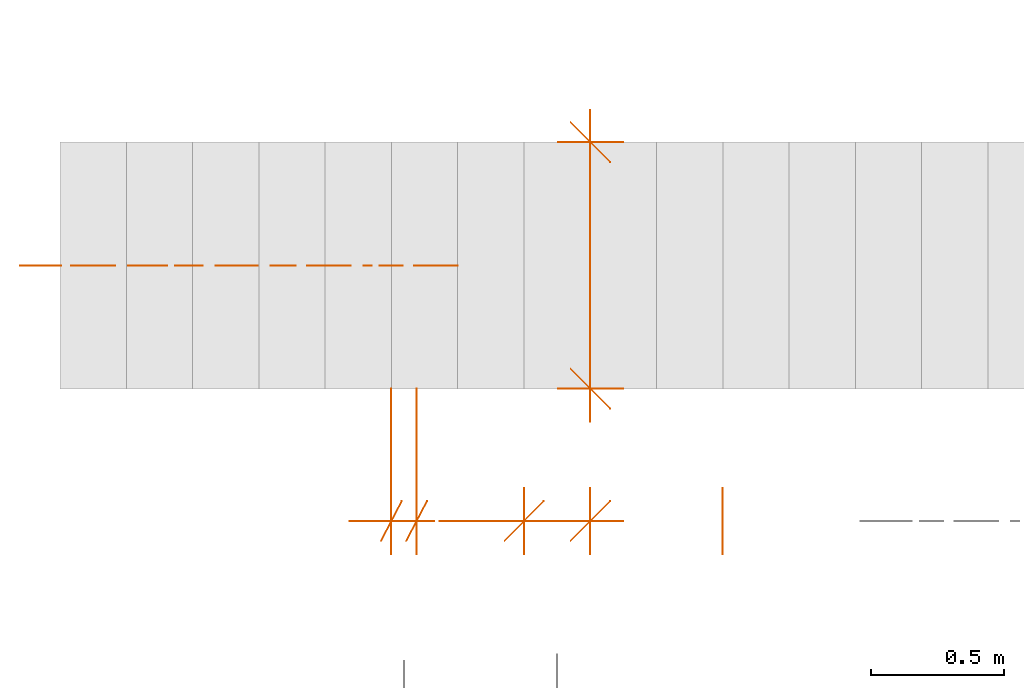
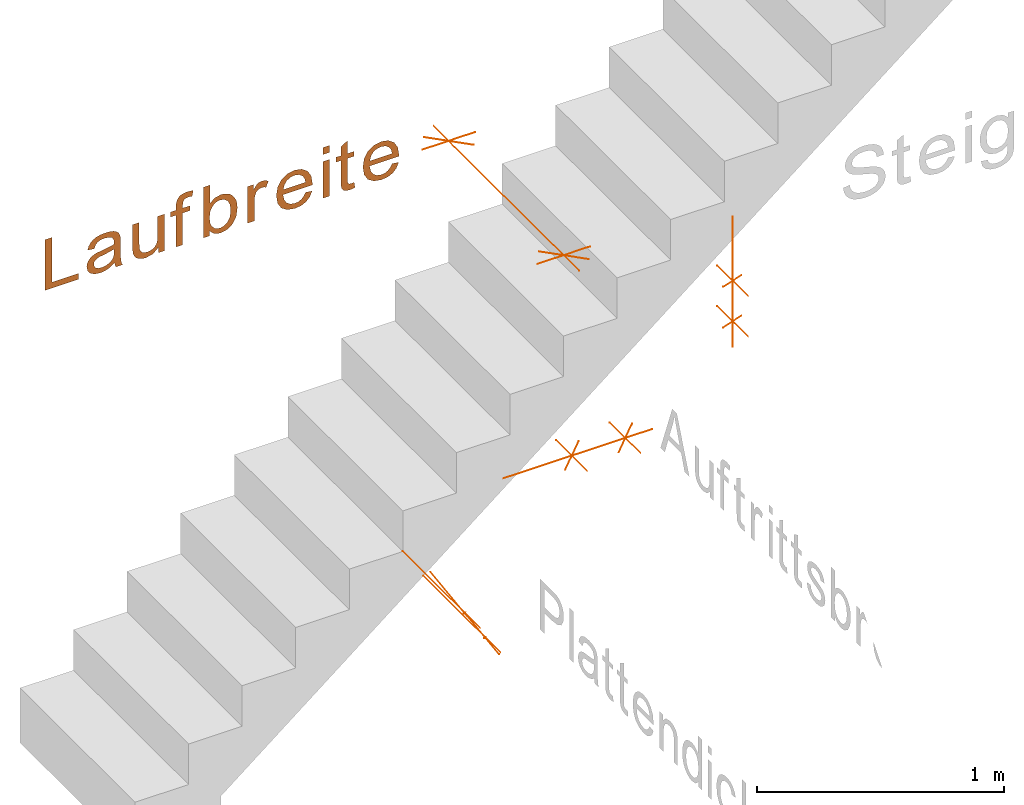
# One storey, part 2 of 5: 5 proxies, 5 elements without a shape of their own.
"""IFC4 building model written with IfcOpenShell, lengths in metres."""

from ifc_helpers import new_model, entity, si_unit, converted_unit, derived_unit, frame, origin, origin_with_axes, place, context, subcontext, project, spatial, open_shell, surface_model, source, transform, mapped, element, aggregate, save


model = new_model("IFC4")

# Units and contexts
model_context = context("Model", 3, precision=1e-05, world=origin())
body_context = subcontext(model_context, "Body", "Model", "MODEL_VIEW")
ifc_project = project(units=[si_unit("LENGTHUNIT", "METRE"), si_unit("AREAUNIT", "SQUARE_METRE"), si_unit("VOLUMEUNIT", "CUBIC_METRE"), si_unit("MASSUNIT", "GRAM", prefix="KILO"), converted_unit("PLANEANGLEUNIT", "DEGREE", entity("IfcPlaneAngleMeasure", 0.0174532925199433), si_unit("PLANEANGLEUNIT", "RADIAN"), dimensions=[0, 0, 0, 0, 0, 0, 0]), derived_unit("THERMALTRANSMITTANCEUNIT", [(si_unit("POWERUNIT", "WATT"), 1), (si_unit("THERMODYNAMICTEMPERATUREUNIT", "KELVIN"), -1), (si_unit("LENGTHUNIT", "METRE"), -2)]), derived_unit("VOLUMETRICFLOWRATEUNIT", [(si_unit("LENGTHUNIT", "METRE"), 3), (converted_unit("TIMEUNIT", "hour", entity("IfcTimeMeasure", 3600.0), si_unit("TIMEUNIT", "SECOND"), dimensions=[0, 0, 1, 0, 0, 0, 0]), -1), (si_unit("LENGTHUNIT", "METRE"), -1)])], contexts=[model_context])

# Site, building, storey
site_placement = place(None, origin())
site = spatial("IfcSite", under=ifc_project, at=site_placement, Name="Liegenschaft", CompositionType="ELEMENT")
building_placement = place(site_placement, origin())
building = spatial("IfcBuilding", under=site, at=building_placement, Name="Gebäude", CompositionType="ELEMENT")
storey_placement = place(building_placement, origin())
storey = spatial("IfcBuildingStorey", under=building, at=storey_placement, Name="Geschoss 02", CompositionType="ELEMENT", Elevation=0.0)

# Assembly, proxy
assembly_1_placement = place(storey_placement, origin())
assembly_1 = element("IfcElementAssembly", 1, at=assembly_1_placement, inside=storey, Name="SpatialDim_Group", PredefinedType="NOTDEFINED")
shared_shape_1 = source(origin_with_axes(), body_context, "Axis", "Curve3D", [
    entity("IfcPolyline", [entity("IfcCartesianPoint", [0.247, 0.05, 0.0]), entity("IfcCartesianPoint", [0.397, 0.2, 0.0])]),
    entity("IfcPolyline", [entity("IfcCartesianPoint", [0.322, 0.0, 0.0]), entity("IfcCartesianPoint", [0.322, 0.25, 0.0])]),
    entity("IfcPolyline", [entity("IfcCartesianPoint", [0.447, 0.05, 0.0]), entity("IfcCartesianPoint", [0.597, 0.2, 0.0])]),
    entity("IfcPolyline", [entity("IfcCartesianPoint", [0.522, 0.0, 0.0]), entity("IfcCartesianPoint", [0.522, 0.25, 0.0])]),
    entity("IfcPolyline", [entity("IfcCartesianPoint", [0.0, 0.125, 0.0]), entity("IfcCartesianPoint", [0.647, 0.125, 0.0])]),
])
proxy_1_placement = place(assembly_1_placement, frame((122.566730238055, -1.68032871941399, 2.522), z_axis=(1.0, 0.0, 1.22464679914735e-16), x_axis=(1.22464679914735e-16, 0.0, -1.0)))
proxy_1 = element("IfcBuildingElementProxy", 2, at=proxy_1_placement, Name="macro", context=body_context, shape_type="MappedRepresentation", body=[
    mapped(shared_shape_1, transform((0.0, 0.0, 0.0), x_axis=(1.0, 0.0, 0.0), y_axis=(0.0, 1.0, 0.0), z_axis=(0.0, 0.0, 1.0), scale=1.0)),
])
aggregate(assembly_1, [proxy_1])

assembly_2_placement = place(storey_placement, origin())
assembly_2 = element("IfcElementAssembly", 3, at=assembly_2_placement, inside=storey, Name="SpatialDim_Group", PredefinedType="NOTDEFINED")
shared_shape_2 = source(origin_with_axes(), body_context, "Axis", "Curve3D", [
    entity("IfcPolyline", [entity("IfcCartesianPoint", [0.247, 0.05, 0.0]), entity("IfcCartesianPoint", [0.397, 0.2, 0.0])]),
    entity("IfcPolyline", [entity("IfcCartesianPoint", [0.322, 0.0, 0.0]), entity("IfcCartesianPoint", [0.322, 0.25, 0.0])]),
    entity("IfcPolyline", [entity("IfcCartesianPoint", [0.497, 0.05, 0.0]), entity("IfcCartesianPoint", [0.647, 0.2, 0.0])]),
    entity("IfcPolyline", [entity("IfcCartesianPoint", [0.572, 0.0, 0.0]), entity("IfcCartesianPoint", [0.572, 0.25, 0.0])]),
    entity("IfcPolyline", [entity("IfcCartesianPoint", [0.0, 0.125, 0.0]), entity("IfcCartesianPoint", [0.697, 0.125, 0.0])]),
])
proxy_2_placement = place(assembly_2_placement, frame((121.494730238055, -1.68032871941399, 1.6)))
proxy_2 = element("IfcBuildingElementProxy", 4, at=proxy_2_placement, Name="macro", context=body_context, shape_type="MappedRepresentation", body=[
    mapped(shared_shape_2, transform((0.0, 0.0, 0.0), x_axis=(1.0, 0.0, 0.0), y_axis=(0.0, 1.0, 0.0), z_axis=(0.0, 0.0, 1.0), scale=1.0)),
])
aggregate(assembly_2, [proxy_2])

assembly_3_placement = place(storey_placement, origin())
assembly_3 = element("IfcElementAssembly", 5, at=assembly_3_placement, inside=storey, Name="SpatialDim_Group", PredefinedType="NOTDEFINED")
shared_shape_3 = source(origin_with_axes(), body_context, "Axis", "Curve3D", [
    entity("IfcPolyline", [entity("IfcCartesianPoint", [0.05, 0.05, 0.0]), entity("IfcCartesianPoint", [0.2, 0.2, 0.0])]),
    entity("IfcPolyline", [entity("IfcCartesianPoint", [0.125, 0.0, 0.0]), entity("IfcCartesianPoint", [0.125, 0.25, 0.0])]),
    entity("IfcPolyline", [entity("IfcCartesianPoint", [0.98, 0.05, 0.0]), entity("IfcCartesianPoint", [1.13, 0.2, 0.0])]),
    entity("IfcPolyline", [entity("IfcCartesianPoint", [1.055, 0.0, 0.0]), entity("IfcCartesianPoint", [1.055, 0.25, 0.0])]),
    entity("IfcPolyline", [entity("IfcCartesianPoint", [0.0, 0.125, 0.0]), entity("IfcCartesianPoint", [1.18, 0.125, 0.0])]),
])
proxy_3_placement = place(assembly_3_placement, frame((121.941730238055, -0.000328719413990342, 2.19819812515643), z_axis=(0.0, 0.0, 1.0), x_axis=(1.22464679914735e-16, -1.0, 0.0)))
proxy_3 = element("IfcBuildingElementProxy", 6, at=proxy_3_placement, Name="macro", context=body_context, shape_type="MappedRepresentation", body=[
    mapped(shared_shape_3, transform((0.0, 0.0, 0.0), x_axis=(1.0, 0.0, 0.0), y_axis=(0.0, 1.0, 0.0), z_axis=(0.0, 0.0, 1.0), scale=1.0)),
])
aggregate(assembly_3, [proxy_3])

assembly_4_placement = place(storey_placement, origin())
assembly_4 = element("IfcElementAssembly", 7, at=assembly_4_placement, inside=storey, Name="SpatialDim_Group", PredefinedType="NOTDEFINED")
shared_shape_4 = source(origin_with_axes(), body_context, "Body", "SurfaceModel", [
    surface_model("IfcShellBasedSurfaceModel", [(0.298675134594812, 2.151, 0.0), (0.298675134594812, 1.995, 0.0), (0.327675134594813, 1.995, 0.0), (0.327675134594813, 2.118, 0.0), (0.548675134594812, 2.118, 0.0), (0.548675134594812, 2.151, 0.0)], [open_shell([[[0, 1, 2, 3, 4, 5]]], orient=[[False]])]),
    surface_model("IfcShellBasedSurfaceModel", [(0.309050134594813, 1.82475, 0.0), (0.298675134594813, 1.821, 0.0), (0.298675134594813, 1.79, 0.0), (0.309300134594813, 1.794625, 0.0), (0.320675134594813, 1.797, 0.0), (0.340175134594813, 1.79875, 0.0), (0.374675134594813, 1.799, 0.0), (0.415675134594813, 1.799, 0.0), (0.433050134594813, 1.799625, 0.0), (0.443675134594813, 1.801, 0.0), (0.455675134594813, 1.80475, 0.0), (0.464675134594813, 1.81, 0.0), (0.472425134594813, 1.819125, 0.0), (0.478675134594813, 1.832, 0.0), (0.482675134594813, 1.849125, 0.0), (0.483675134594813, 1.87, 0.0), (0.482175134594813, 1.8925, 0.0), (0.477675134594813, 1.912, 0.0), (0.469300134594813, 1.92775, 0.0), (0.458675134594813, 1.939, 0.0), (0.444675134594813, 1.947875, 0.0), (0.427675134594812, 1.953, 0.0), (0.423675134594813, 1.922, 0.0), (0.440925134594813, 1.915125, 0.0), (0.450675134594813, 1.906, 0.0), (0.456925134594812, 1.892625, 0.0), (0.458675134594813, 1.874, 0.0), (0.455925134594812, 1.853, 0.0), (0.448675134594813, 1.838, 0.0), (0.437425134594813, 1.83125, 0.0), (0.421675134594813, 1.829, 0.0), (0.418425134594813, 1.829, 0.0), (0.413675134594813, 1.829, 0.0), (0.407800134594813, 1.852125, 0.0), (0.402675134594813, 1.885, 0.0), (0.400300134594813, 1.90075, 0.0), (0.398675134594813, 1.912, 0.0), (0.394050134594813, 1.924625, 0.0), (0.388675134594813, 1.935, 0.0), (0.380425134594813, 1.944125, 0.0), (0.370675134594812, 1.951, 0.0), (0.358675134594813, 1.9555, 0.0), (0.346675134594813, 1.957, 0.0), (0.325550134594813, 1.95275, 0.0), (0.309675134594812, 1.941, 0.0), (0.298425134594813, 1.9205, 0.0), (0.294675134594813, 1.894, 0.0), (0.296175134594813, 1.87625, 0.0), (0.300675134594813, 1.86, 0.0), (0.308925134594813, 1.8435, 0.0), (0.321675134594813, 1.827, 0.0), (0.383675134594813, 1.85, 0.0), (0.389675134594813, 1.829, 0.0), (0.378675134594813, 1.829, 0.0), (0.360175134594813, 1.830375, 0.0), (0.347675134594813, 1.834, 0.0), (0.334925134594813, 1.843, 0.0), (0.326675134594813, 1.855, 0.0), (0.320425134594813, 1.87025, 0.0), (0.318675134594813, 1.887, 0.0), (0.320800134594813, 1.90325, 0.0), (0.326675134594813, 1.915, 0.0), (0.336425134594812, 1.92175, 0.0), (0.347675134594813, 1.924, 0.0), (0.355425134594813, 1.92275, 0.0), (0.361675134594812, 1.92, 0.0), (0.367800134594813, 1.913875, 0.0), (0.371675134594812, 1.907, 0.0), (0.375425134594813, 1.89575, 0.0), (0.377675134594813, 1.88, 0.0)], [open_shell([[[0, 1, 2, 3, 4, 5, 6, 7, 8, 9, 10, 11, 12, 13, 14, 15, 16, 17, 18, 19, 20, 21, 22, 23, 24, 25, 26, 27, 28, 29, 30, 31, 32, 33, 34, 35, 36, 37, 38, 39, 40, 41, 42, 43, 44, 45, 46, 47, 48, 49, 50], [51, 52, 53, 54, 55, 56, 57, 58, 59, 60, 61, 62, 63, 64, 65, 66, 67, 68, 69]]], orient=[[False, False]])]),
    surface_model("IfcShellBasedSurfaceModel", [(0.298675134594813, 1.623, 0.0), (0.298675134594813, 1.595, 0.0), (0.479675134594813, 1.595, 0.0), (0.479675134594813, 1.626, 0.0), (0.382675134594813, 1.626, 0.0), (0.361675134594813, 1.627375, 0.0), (0.346675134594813, 1.631, 0.0), (0.335675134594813, 1.638, 0.0), (0.327675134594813, 1.648, 0.0), (0.322300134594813, 1.660625, 0.0), (0.320675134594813, 1.674, 0.0), (0.322675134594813, 1.6875, 0.0), (0.327675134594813, 1.698, 0.0), (0.336050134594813, 1.7055, 0.0), (0.346675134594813, 1.71, 0.0), (0.358925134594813, 1.71175, 0.0), (0.378675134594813, 1.712, 0.0), (0.479675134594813, 1.712, 0.0), (0.479675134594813, 1.743, 0.0), (0.367675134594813, 1.743, 0.0), (0.350175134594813, 1.742375, 0.0), (0.338675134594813, 1.741, 0.0), (0.326550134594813, 1.73725, 0.0), (0.316675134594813, 1.732, 0.0), (0.307550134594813, 1.723, 0.0), (0.300675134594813, 1.711, 0.0), (0.296175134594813, 1.696, 0.0), (0.294675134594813, 1.681, 0.0), (0.302175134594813, 1.647875, 0.0), (0.324675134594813, 1.623, 0.0)], [open_shell([[[0, 1, 2, 3, 4, 5, 6, 7, 8, 9, 10, 11, 12, 13, 14, 15, 16, 17, 18, 19, 20, 21, 22, 23, 24, 25, 26, 27, 28, 29]]], orient=[[False]])]),
    surface_model("IfcShellBasedSurfaceModel", [(0.298675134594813, 1.54, 0.0), (0.298675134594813, 1.509, 0.0), (0.455675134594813, 1.509, 0.0), (0.455675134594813, 1.474, 0.0), (0.479675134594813, 1.474, 0.0), (0.479675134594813, 1.509, 0.0), (0.496675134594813, 1.509, 0.0), (0.510300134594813, 1.5075, 0.0), (0.518675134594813, 1.503, 0.0), (0.523175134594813, 1.494875, 0.0), (0.524675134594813, 1.483, 0.0), (0.524050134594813, 1.474, 0.0), (0.522675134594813, 1.465, 0.0), (0.549675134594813, 1.46, 0.0), (0.551925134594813, 1.475625, 0.0), (0.552675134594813, 1.489, 0.0), (0.550675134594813, 1.50725, 0.0), (0.545675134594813, 1.521, 0.0), (0.536425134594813, 1.53075, 0.0), (0.525675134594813, 1.536, 0.0), (0.514425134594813, 1.539125, 0.0), (0.498675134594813, 1.54, 0.0), (0.479675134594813, 1.54, 0.0), (0.479675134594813, 1.566, 0.0), (0.455675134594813, 1.566, 0.0), (0.455675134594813, 1.54, 0.0)], [open_shell([[[0, 1, 2, 3, 4, 5, 6, 7, 8, 9, 10, 11, 12, 13, 14, 15, 16, 17, 18, 19, 20, 21, 22, 23, 24, 25]]], orient=[[False]])]),
    surface_model("IfcShellBasedSurfaceModel", [(0.298675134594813, 1.383, 0.0), (0.321675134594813, 1.383, 0.0), (0.301425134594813, 1.361375, 0.0), (0.294675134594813, 1.333, 0.0), (0.301175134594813, 1.302375, 0.0), (0.319675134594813, 1.277, 0.0), (0.351175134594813, 1.2595, 0.0), (0.391675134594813, 1.254, 0.0), (0.411300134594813, 1.255375, 0.0), (0.428675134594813, 1.259, 0.0), (0.444675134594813, 1.26625, 0.0), (0.457675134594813, 1.275, 0.0), (0.469050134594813, 1.2855, 0.0), (0.476675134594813, 1.299, 0.0), (0.482050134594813, 1.314625, 0.0), (0.483675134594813, 1.331, 0.0), (0.477675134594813, 1.358625, 0.0), (0.459675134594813, 1.381, 0.0), (0.548675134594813, 1.381, 0.0), (0.548675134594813, 1.412, 0.0), (0.298675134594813, 1.412, 0.0), (0.362675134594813, 1.38175, 0.0), (0.390675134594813, 1.384, 0.0), (0.419925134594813, 1.38025, 0.0), (0.441675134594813, 1.369, 0.0), (0.454675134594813, 1.352625, 0.0), (0.458675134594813, 1.334, 0.0), (0.454300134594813, 1.315, 0.0), (0.441675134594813, 1.299, 0.0), (0.419800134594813, 1.28825, 0.0), (0.389675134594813, 1.285, 0.0), (0.358800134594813, 1.28875, 0.0), (0.337675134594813, 1.3, 0.0), (0.324175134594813, 1.316375, 0.0), (0.319675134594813, 1.335, 0.0), (0.325675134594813, 1.357625, 0.0), (0.343675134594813, 1.375, 0.0)], [open_shell([[[0, 1, 2, 3, 4, 5, 6, 7, 8, 9, 10, 11, 12, 13, 14, 15, 16, 17, 18, 19, 20], [21, 22, 23, 24, 25, 26, 27, 28, 29, 30, 31, 32, 33, 34, 35, 36]]], orient=[[False, False]])]),
    surface_model("IfcShellBasedSurfaceModel", [(0.298675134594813, 1.206, 0.0), (0.298675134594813, 1.175, 0.0), (0.393675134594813, 1.175, 0.0), (0.412300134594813, 1.173625, 0.0), (0.428675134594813, 1.17, 0.0), (0.438675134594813, 1.165625, 0.0), (0.445675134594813, 1.159, 0.0), (0.450175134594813, 1.15, 0.0), (0.451675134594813, 1.141, 0.0), (0.450175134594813, 1.12975, 0.0), (0.445675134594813, 1.12, 0.0), (0.473675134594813, 1.109, 0.0), (0.481300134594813, 1.124875, 0.0), (0.483675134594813, 1.14, 0.0), (0.482175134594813, 1.15075, 0.0), (0.477675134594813, 1.16, 0.0), (0.468050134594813, 1.1695, 0.0), (0.451675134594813, 1.179, 0.0), (0.479675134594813, 1.179, 0.0), (0.479675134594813, 1.206, 0.0)], [open_shell([[[0, 1, 2, 3, 4, 5, 6, 7, 8, 9, 10, 11, 12, 13, 14, 15, 16, 17, 18, 19]]], orient=[[False]])]),
    surface_model("IfcShellBasedSurfaceModel", [(0.356675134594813, 0.936, 0.0), (0.340050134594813, 0.944875, 0.0), (0.328675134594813, 0.956, 0.0), (0.321925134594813, 0.969375, 0.0), (0.319675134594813, 0.985, 0.0), (0.323925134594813, 1.00675, 0.0), (0.335675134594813, 1.024, 0.0), (0.355300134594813, 1.035875, 0.0), (0.381675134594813, 1.041, 0.0), (0.381675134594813, 0.904, 0.0), (0.386425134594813, 0.904, 0.0), (0.389675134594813, 0.904, 0.0), (0.429425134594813, 0.909875, 0.0), (0.458675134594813, 0.927, 0.0), (0.477550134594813, 0.954, 0.0), (0.483675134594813, 0.987, 0.0), (0.477175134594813, 1.021625, 0.0), (0.458675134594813, 1.048, 0.0), (0.428050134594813, 1.066, 0.0), (0.387675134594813, 1.072, 0.0), (0.347925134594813, 1.066125, 0.0), (0.318675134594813, 1.049, 0.0), (0.300675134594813, 1.02075, 0.0), (0.294675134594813, 0.985, 0.0), (0.298425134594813, 0.955625, 0.0), (0.309675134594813, 0.933, 0.0), (0.328175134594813, 0.915625, 0.0), (0.352675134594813, 0.905, 0.0), (0.426300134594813, 0.93975, 0.0), (0.406675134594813, 0.936, 0.0), (0.406675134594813, 1.04, 0.0), (0.428300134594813, 1.034625, 0.0), (0.444675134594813, 1.024, 0.0), (0.455425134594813, 1.007, 0.0), (0.458675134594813, 0.987, 0.0), (0.454175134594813, 0.96525, 0.0), (0.440675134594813, 0.948, 0.0)], [open_shell([[[0, 1, 2, 3, 4, 5, 6, 7, 8, 9, 10, 11, 12, 13, 14, 15, 16, 17, 18, 19, 20, 21, 22, 23, 24, 25, 26, 27], [28, 29, 30, 31, 32, 33, 34, 35, 36]]], orient=[[False, False]])]),
    surface_model("IfcShellBasedSurfaceModel", [(0.298675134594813, 0.855, 0.0), (0.298675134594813, 0.824, 0.0), (0.479675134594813, 0.824, 0.0), (0.479675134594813, 0.855, 0.0), (0.514675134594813, 0.855, 0.0), (0.514675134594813, 0.824, 0.0), (0.548675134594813, 0.824, 0.0), (0.548675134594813, 0.855, 0.0)], [open_shell([[[0, 1, 2, 3]], [[4, 5, 6, 7]]], orient=[[False], [False]])]),
    surface_model("IfcShellBasedSurfaceModel", [(0.326675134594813, 0.709, 0.0), (0.325800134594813, 0.71675, 0.0), (0.325675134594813, 0.723, 0.0), (0.326300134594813, 0.72875, 0.0), (0.327675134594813, 0.733, 0.0), (0.330675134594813, 0.736625, 0.0), (0.333675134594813, 0.738, 0.0), (0.340300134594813, 0.73975, 0.0), (0.350675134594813, 0.74, 0.0), (0.455675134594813, 0.74, 0.0), (0.455675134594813, 0.709, 0.0), (0.479675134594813, 0.709, 0.0), (0.479675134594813, 0.74, 0.0), (0.542675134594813, 0.74, 0.0), (0.524675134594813, 0.771, 0.0), (0.479675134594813, 0.771, 0.0), (0.479675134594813, 0.794, 0.0), (0.455675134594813, 0.794, 0.0), (0.455675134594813, 0.771, 0.0), (0.351675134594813, 0.771, 0.0), (0.329175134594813, 0.76975, 0.0), (0.315675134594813, 0.767, 0.0), (0.307925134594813, 0.761625, 0.0), (0.301675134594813, 0.754, 0.0), (0.297675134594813, 0.742875, 0.0), (0.296675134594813, 0.728, 0.0), (0.297425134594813, 0.716875, 0.0), (0.299675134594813, 0.705, 0.0)], [open_shell([[[0, 1, 2, 3, 4, 5, 6, 7, 8, 9, 10, 11, 12, 13, 14, 15, 16, 17, 18, 19, 20, 21, 22, 23, 24, 25, 26, 27]]], orient=[[False]])]),
    surface_model("IfcShellBasedSurfaceModel", [(0.356675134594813, 0.532, 0.0), (0.340050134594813, 0.540875, 0.0), (0.328675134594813, 0.552, 0.0), (0.321925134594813, 0.565375, 0.0), (0.319675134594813, 0.581, 0.0), (0.323925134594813, 0.60275, 0.0), (0.335675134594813, 0.62, 0.0), (0.355300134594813, 0.631875, 0.0), (0.381675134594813, 0.637, 0.0), (0.381675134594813, 0.5, 0.0), (0.386425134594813, 0.5, 0.0), (0.389675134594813, 0.5, 0.0), (0.429425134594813, 0.505875, 0.0), (0.458675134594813, 0.523, 0.0), (0.477550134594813, 0.55, 0.0), (0.483675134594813, 0.583, 0.0), (0.477175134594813, 0.617625, 0.0), (0.458675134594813, 0.644, 0.0), (0.428050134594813, 0.662, 0.0), (0.387675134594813, 0.668, 0.0), (0.347925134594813, 0.662125, 0.0), (0.318675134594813, 0.645, 0.0), (0.300675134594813, 0.61675, 0.0), (0.294675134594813, 0.581, 0.0), (0.298425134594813, 0.551625, 0.0), (0.309675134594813, 0.529, 0.0), (0.328175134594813, 0.511625, 0.0), (0.352675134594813, 0.501, 0.0), (0.426300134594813, 0.53575, 0.0), (0.406675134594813, 0.532, 0.0), (0.406675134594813, 0.636, 0.0), (0.428300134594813, 0.630625, 0.0), (0.444675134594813, 0.62, 0.0), (0.455425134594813, 0.603, 0.0), (0.458675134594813, 0.583, 0.0), (0.454175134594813, 0.56125, 0.0), (0.440675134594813, 0.544, 0.0)], [open_shell([[[0, 1, 2, 3, 4, 5, 6, 7, 8, 9, 10, 11, 12, 13, 14, 15, 16, 17, 18, 19, 20, 21, 22, 23, 24, 25, 26, 27], [28, 29, 30, 31, 32, 33, 34, 35, 36]]], orient=[[False, False]])]),
])
proxy_4_placement = place(assembly_4_placement, frame((122.066730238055, -0.59032871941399, 2.19819812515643), z_axis=(-1.22464679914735e-16, -1.0, 1.49975978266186e-32), x_axis=(1.22464679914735e-16, 0.0, 1.0)))
proxy_4 = element("IfcBuildingElementProxy", 8, at=proxy_4_placement, Name="macro", context=body_context, shape_type="MappedRepresentation", body=[
    mapped(shared_shape_4, transform((0.0, 0.0, 0.0), x_axis=(1.0, 0.0, 0.0), y_axis=(0.0, 1.0, 0.0), z_axis=(0.0, 0.0, 1.0), scale=1.0)),
])
aggregate(assembly_4, [proxy_4])

assembly_5_placement = place(storey_placement, origin())
assembly_5 = element("IfcElementAssembly", 9, at=assembly_5_placement, inside=storey, Name="SpatialDim_Group", PredefinedType="NOTDEFINED")
shared_shape_5 = source(origin_with_axes(), body_context, "Axis", "Curve3D", [
    entity("IfcPolyline", [entity("IfcCartesianPoint", [0.233, 0.05, 0.0]), entity("IfcCartesianPoint", [0.383, 0.2, 0.0])]),
    entity("IfcPolyline", [entity("IfcCartesianPoint", [0.308, 0.0, 0.0]), entity("IfcCartesianPoint", [0.308, 0.625, 0.0])]),
    entity("IfcPolyline", [entity("IfcCartesianPoint", [0.414354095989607, 0.05, 0.0]), entity("IfcCartesianPoint", [0.564354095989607, 0.2, 0.0])]),
    entity("IfcPolyline", [entity("IfcCartesianPoint", [0.489354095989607, 0.0, 0.0]), entity("IfcCartesianPoint", [0.489354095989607, 0.625, 0.0])]),
    entity("IfcPolyline", [entity("IfcCartesianPoint", [0.0, 0.125, 0.0]), entity("IfcCartesianPoint", [0.614354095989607, 0.125, 0.0])]),
])
proxy_5_placement = place(assembly_5_placement, frame((121.155096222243, -1.68032871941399, 1.26218017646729), z_axis=(0.851234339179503, 0.0, 0.524785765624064), x_axis=(0.524785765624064, 0.0, -0.851234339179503)))
proxy_5 = element("IfcBuildingElementProxy", 10, at=proxy_5_placement, context=body_context, shape_type="MappedRepresentation", body=[
    mapped(shared_shape_5, transform((0.0, 0.0, 0.0), x_axis=(1.0, 0.0, 0.0), y_axis=(0.0, 1.0, 0.0), z_axis=(0.0, 0.0, 1.0), scale=1.0)),
])
aggregate(assembly_5, [proxy_5])

save(model, "model.ifc")
